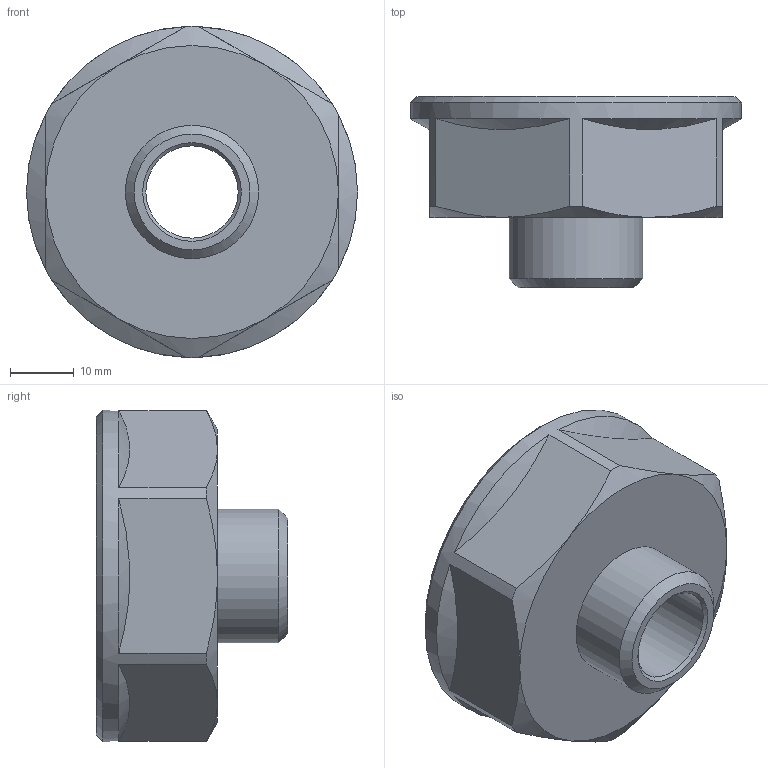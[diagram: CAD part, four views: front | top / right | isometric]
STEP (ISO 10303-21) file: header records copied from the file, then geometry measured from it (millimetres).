
FILE_DESCRIPTION(('STEP AP203'), '1');
FILE_NAME('ﾂﾐ.753138.010 - VTr.592.N.0704 ﾏ褞襄. G1 1-4xG1-2', '2024-07-08T09:37:22', ('Boss'), (''), 'C3D Converter', 'C3D Toolkit', '');
FILE_SCHEMA(('CONFIG_CONTROL_DESIGN'));
Length unit declared in the file: millimetre
Products named in the file (1): ВР.753138.010
Bounding box: 52 x 30 x 52 mm (x, y, z)
Volume: 17939.5 mm3; surface area: 9738.2 mm2
Topology: 1 solids, 1 shells, 31 faces, 70 edges, 43 vertices
Faces by surface type: cone 16, plane 10, cylinder 4, torus 1
Full cylindrical faces by diameter (mm): 14.5 x1, 20.955 x1, 38.953 x1, 52 x1
Entity records: 1440 total; most frequent: CARTESIAN_POINT 755, DIRECTION 138, ORIENTED_EDGE 122, AXIS2_PLACEMENT_3D 63, EDGE_CURVE 61, EDGE_LOOP 44, VERTEX_POINT 43, ADVANCED_FACE 31
